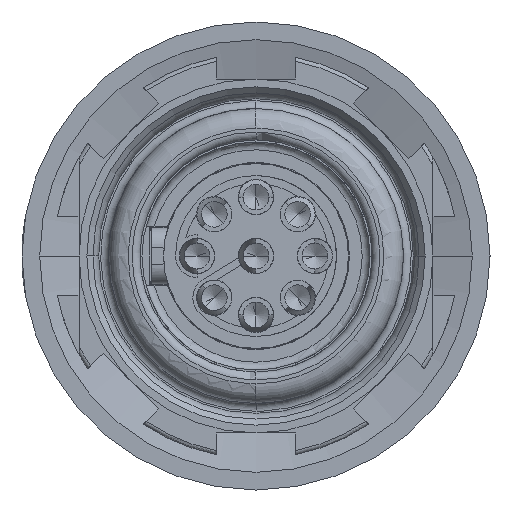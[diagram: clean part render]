
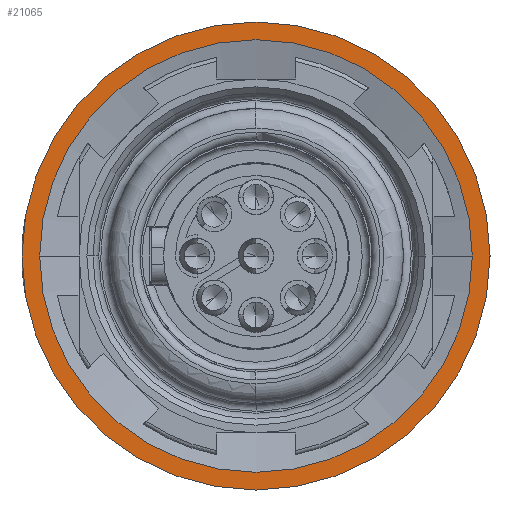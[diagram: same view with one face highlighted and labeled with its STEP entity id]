
A CAD part, left-side view. The second image highlights one B-rep face of the part: STEP entity #21065.
In plain terms, the highlighted planar face has unit normal (-1, 0, 0).
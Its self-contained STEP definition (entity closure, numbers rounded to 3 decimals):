
#5992=CARTESIAN_POINT('',(-5.,0.,0.));
#5993=DIRECTION('',(1.,0.,0.));
#5994=DIRECTION('',(0.,1.,0.));
#5995=AXIS2_PLACEMENT_3D('',#5992,#5993,#5994);
#5997=CARTESIAN_POINT('',(-5.,0.,0.));
#5998=DIRECTION('',(1.,0.,0.));
#5999=DIRECTION('',(0.,-1.,0.));
#6000=AXIS2_PLACEMENT_3D('',#5997,#5998,#5999);
#6002=CARTESIAN_POINT('',(-5.,0.,0.));
#6003=DIRECTION('',(-1.,0.,0.));
#6004=DIRECTION('',(0.,1.,0.));
#6005=AXIS2_PLACEMENT_3D('',#6002,#6003,#6004);
#6007=CARTESIAN_POINT('',(-5.,0.,0.));
#6008=DIRECTION('',(-1.,0.,0.));
#6009=DIRECTION('',(0.,-1.,0.));
#6010=AXIS2_PLACEMENT_3D('',#6007,#6008,#6009);
#11182=CARTESIAN_POINT('',(-5.,5.5,0.));
#11183=VERTEX_POINT('',#11182);
#11184=CARTESIAN_POINT('',(-5.,-5.5,0.));
#11185=VERTEX_POINT('',#11184);
#11188=CARTESIAN_POINT('',(-5.,5.95,0.));
#11189=CARTESIAN_POINT('',(-5.,-5.95,0.));
#11190=VERTEX_POINT('',#11188);
#11191=VERTEX_POINT('',#11189);
#21050=CARTESIAN_POINT('',(-5.,0.,0.));
#21051=DIRECTION('',(-1.,0.,0.));
#21052=DIRECTION('',(0.,-1.,0.));
#21053=AXIS2_PLACEMENT_3D('',#21050,#21051,#21052);
#21054=PLANE('',#21053);
#21056=ORIENTED_EDGE('',*,*,#21055,.T.);
#21058=ORIENTED_EDGE('',*,*,#21057,.T.);
#21059=EDGE_LOOP('',(#21056,#21058));
#21060=FACE_OUTER_BOUND('',#21059,.F.);
#21061=ORIENTED_EDGE('',*,*,#21016,.T.);
#21062=ORIENTED_EDGE('',*,*,#20992,.T.);
#21063=EDGE_LOOP('',(#21061,#21062));
#21064=FACE_BOUND('',#21063,.F.);
#5996=CIRCLE('',#5995,5.95);
#6001=CIRCLE('',#6000,5.95);
#6006=CIRCLE('',#6005,5.5);
#6011=CIRCLE('',#6010,5.5);
#20992=EDGE_CURVE('',#11185,#11183,#6011,.T.);
#21016=EDGE_CURVE('',#11183,#11185,#6006,.T.);
#21055=EDGE_CURVE('',#11190,#11191,#5996,.T.);
#21057=EDGE_CURVE('',#11191,#11190,#6001,.T.);
#21065=ADVANCED_FACE('',(#21060,#21064),#21054,.T.);
